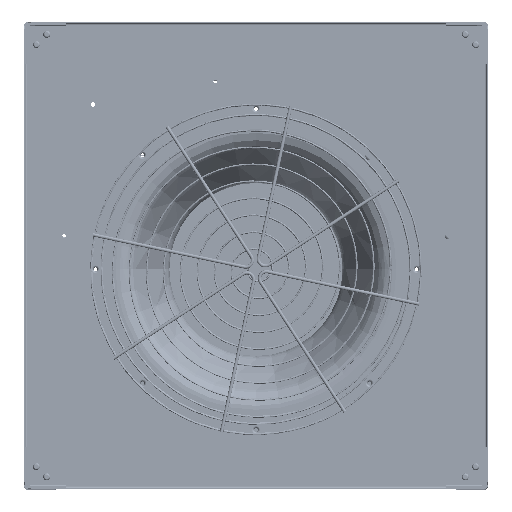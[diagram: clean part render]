
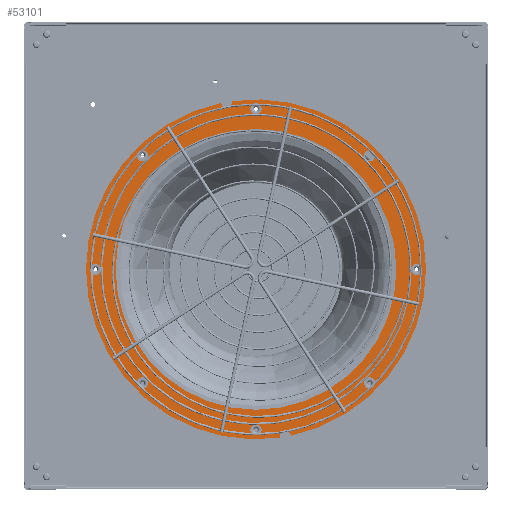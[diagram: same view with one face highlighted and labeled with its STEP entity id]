
A CAD part, top view. The second image highlights one B-rep face of the part: STEP entity #53101.
In plain terms, the highlighted planar face has unit normal (0, 0, 1) as drawn and (1, 0, 0) by its records, which use the part's own axes.
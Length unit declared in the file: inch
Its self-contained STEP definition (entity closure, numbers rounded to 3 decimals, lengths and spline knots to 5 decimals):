
#52357=CARTESIAN_POINT('',(0.,2.1489,-12.187));
#52358=DIRECTION('',(1.,0.,0.));
#52359=DIRECTION('',(0.,0.982,0.19));
#52360=AXIS2_PLACEMENT_3D('',#52357,#52358,#52359);
#52362=CARTESIAN_POINT('',(0.,2.1489,-12.187));
#52363=DIRECTION('',(1.,0.,0.));
#52364=DIRECTION('',(0.,-1.,0.));
#52365=AXIS2_PLACEMENT_3D('',#52362,#52363,#52364);
#52367=CARTESIAN_POINT('',(0.,0.,0.));
#52368=DIRECTION('',(-1.,0.,0.));
#52369=DIRECTION('',(0.,0.141,-0.99));
#52370=AXIS2_PLACEMENT_3D('',#52367,#52368,#52369);
#52372=CARTESIAN_POINT('',(0.,0.,0.));
#52373=DIRECTION('',(-1.,0.,0.));
#52374=DIRECTION('',(0.,-1.,0.));
#52375=AXIS2_PLACEMENT_3D('',#52372,#52373,#52374);
#52377=CARTESIAN_POINT('',(0.,-2.1489,12.187));
#52378=DIRECTION('',(1.,0.,0.));
#52379=DIRECTION('',(0.,-0.982,-0.19));
#52380=AXIS2_PLACEMENT_3D('',#52377,#52378,#52379);
#52382=CARTESIAN_POINT('',(0.,-2.1489,12.187));
#52383=DIRECTION('',(1.,0.,0.));
#52384=DIRECTION('',(0.,1.,0.));
#52385=AXIS2_PLACEMENT_3D('',#52382,#52383,#52384);
#52387=CARTESIAN_POINT('',(0.,0.,0.));
#52388=DIRECTION('',(-1.,0.,0.));
#52389=DIRECTION('',(0.,-0.141,0.99));
#52390=AXIS2_PLACEMENT_3D('',#52387,#52388,#52389);
#52392=CARTESIAN_POINT('',(0.,0.,0.));
#52393=DIRECTION('',(-1.,0.,0.));
#52394=DIRECTION('',(0.,1.,0.));
#52395=AXIS2_PLACEMENT_3D('',#52392,#52393,#52394);
#52397=CARTESIAN_POINT('',(0.,11.69,0.));
#52398=DIRECTION('',(1.,0.,0.));
#52399=DIRECTION('',(0.,1.,0.));
#52400=AXIS2_PLACEMENT_3D('',#52397,#52398,#52399);
#52402=CARTESIAN_POINT('',(0.,11.69,0.));
#52403=DIRECTION('',(1.,0.,0.));
#52404=DIRECTION('',(0.,-1.,0.));
#52405=AXIS2_PLACEMENT_3D('',#52402,#52403,#52404);
#52407=CARTESIAN_POINT('',(0.,8.26608,8.26608));
#52408=DIRECTION('',(1.,0.,0.));
#52409=DIRECTION('',(0.,1.,0.));
#52410=AXIS2_PLACEMENT_3D('',#52407,#52408,#52409);
#52412=CARTESIAN_POINT('',(0.,8.26608,8.26608));
#52413=DIRECTION('',(1.,0.,0.));
#52414=DIRECTION('',(0.,-1.,0.));
#52415=AXIS2_PLACEMENT_3D('',#52412,#52413,#52414);
#52417=CARTESIAN_POINT('',(0.,0.,11.69));
#52418=DIRECTION('',(1.,0.,0.));
#52419=DIRECTION('',(0.,1.,0.));
#52420=AXIS2_PLACEMENT_3D('',#52417,#52418,#52419);
#52422=CARTESIAN_POINT('',(0.,0.,11.69));
#52423=DIRECTION('',(1.,0.,0.));
#52424=DIRECTION('',(0.,-1.,0.));
#52425=AXIS2_PLACEMENT_3D('',#52422,#52423,#52424);
#52427=CARTESIAN_POINT('',(0.,-8.26608,8.26608));
#52428=DIRECTION('',(1.,0.,0.));
#52429=DIRECTION('',(0.,1.,0.));
#52430=AXIS2_PLACEMENT_3D('',#52427,#52428,#52429);
#52432=CARTESIAN_POINT('',(0.,-8.26608,8.26608));
#52433=DIRECTION('',(1.,0.,0.));
#52434=DIRECTION('',(0.,-1.,0.));
#52435=AXIS2_PLACEMENT_3D('',#52432,#52433,#52434);
#52437=CARTESIAN_POINT('',(0.,-11.69,0.));
#52438=DIRECTION('',(1.,0.,0.));
#52439=DIRECTION('',(0.,1.,0.));
#52440=AXIS2_PLACEMENT_3D('',#52437,#52438,#52439);
#52442=CARTESIAN_POINT('',(0.,-11.69,0.));
#52443=DIRECTION('',(1.,0.,0.));
#52444=DIRECTION('',(0.,-1.,0.));
#52445=AXIS2_PLACEMENT_3D('',#52442,#52443,#52444);
#52447=CARTESIAN_POINT('',(0.,-8.26608,-8.26608));
#52448=DIRECTION('',(1.,0.,0.));
#52449=DIRECTION('',(0.,1.,0.));
#52450=AXIS2_PLACEMENT_3D('',#52447,#52448,#52449);
#52452=CARTESIAN_POINT('',(0.,-8.26608,-8.26608));
#52453=DIRECTION('',(1.,0.,0.));
#52454=DIRECTION('',(0.,-1.,0.));
#52455=AXIS2_PLACEMENT_3D('',#52452,#52453,#52454);
#52457=CARTESIAN_POINT('',(0.,0.,-11.69));
#52458=DIRECTION('',(1.,0.,0.));
#52459=DIRECTION('',(0.,1.,0.));
#52460=AXIS2_PLACEMENT_3D('',#52457,#52458,#52459);
#52462=CARTESIAN_POINT('',(0.,0.,-11.69));
#52463=DIRECTION('',(1.,0.,0.));
#52464=DIRECTION('',(0.,-1.,0.));
#52465=AXIS2_PLACEMENT_3D('',#52462,#52463,#52464);
#52467=CARTESIAN_POINT('',(0.,8.26608,-8.26608));
#52468=DIRECTION('',(1.,0.,0.));
#52469=DIRECTION('',(0.,1.,0.));
#52470=AXIS2_PLACEMENT_3D('',#52467,#52468,#52469);
#52472=CARTESIAN_POINT('',(0.,8.26608,-8.26608));
#52473=DIRECTION('',(1.,0.,0.));
#52474=DIRECTION('',(0.,-1.,0.));
#52475=AXIS2_PLACEMENT_3D('',#52472,#52473,#52474);
#52477=CARTESIAN_POINT('',(0.,0.,0.));
#52478=DIRECTION('',(1.,0.,0.));
#52479=DIRECTION('',(0.,-1.,0.));
#52480=AXIS2_PLACEMENT_3D('',#52477,#52478,#52479);
#52482=CARTESIAN_POINT('',(0.,0.,0.));
#52483=DIRECTION('',(1.,0.,0.));
#52484=DIRECTION('',(0.,1.,0.));
#52485=AXIS2_PLACEMENT_3D('',#52482,#52483,#52484);
#52720=CARTESIAN_POINT('',(0.,12.096,0.));
#52721=CARTESIAN_POINT('',(0.,11.284,0.));
#52722=VERTEX_POINT('',#52720);
#52723=VERTEX_POINT('',#52721);
#52724=CARTESIAN_POINT('',(0.,2.54752,-12.10995));
#52725=CARTESIAN_POINT('',(0.,1.7429,-12.187));
#52726=VERTEX_POINT('',#52724);
#52727=VERTEX_POINT('',#52725);
#52728=CARTESIAN_POINT('',(0.,1.74796,-12.25093));
#52729=VERTEX_POINT('',#52728);
#52730=CARTESIAN_POINT('',(0.,-12.375,0.));
#52731=CARTESIAN_POINT('',(0.,-2.54752,12.10995));
#52732=VERTEX_POINT('',#52730);
#52733=VERTEX_POINT('',#52731);
#52734=CARTESIAN_POINT('',(0.,-1.7429,12.187));
#52735=VERTEX_POINT('',#52734);
#52736=CARTESIAN_POINT('',(0.,-1.74796,12.25093));
#52737=VERTEX_POINT('',#52736);
#52738=CARTESIAN_POINT('',(0.,12.375,0.));
#52739=VERTEX_POINT('',#52738);
#52740=CARTESIAN_POINT('',(0.,8.67208,8.26608));
#52741=CARTESIAN_POINT('',(0.,7.86008,8.26608));
#52742=VERTEX_POINT('',#52740);
#52743=VERTEX_POINT('',#52741);
#52744=CARTESIAN_POINT('',(0.,0.406,11.69));
#52745=CARTESIAN_POINT('',(0.,-0.406,11.69));
#52746=VERTEX_POINT('',#52744);
#52747=VERTEX_POINT('',#52745);
#52748=CARTESIAN_POINT('',(0.,-7.86008,8.26608));
#52749=CARTESIAN_POINT('',(0.,-8.67208,8.26608));
#52750=VERTEX_POINT('',#52748);
#52751=VERTEX_POINT('',#52749);
#52752=CARTESIAN_POINT('',(0.,-11.284,0.));
#52753=CARTESIAN_POINT('',(0.,-12.096,0.));
#52754=VERTEX_POINT('',#52752);
#52755=VERTEX_POINT('',#52753);
#52756=CARTESIAN_POINT('',(0.,-7.86008,-8.26608));
#52757=CARTESIAN_POINT('',(0.,-8.67208,-8.26608));
#52758=VERTEX_POINT('',#52756);
#52759=VERTEX_POINT('',#52757);
#52760=CARTESIAN_POINT('',(0.,0.406,-11.69));
#52761=CARTESIAN_POINT('',(0.,-0.406,-11.69));
#52762=VERTEX_POINT('',#52760);
#52763=VERTEX_POINT('',#52761);
#52764=CARTESIAN_POINT('',(0.,8.67208,-8.26608));
#52765=CARTESIAN_POINT('',(0.,7.86008,-8.26608));
#52766=VERTEX_POINT('',#52764);
#52767=VERTEX_POINT('',#52765);
#52768=CARTESIAN_POINT('',(0.,-10.22,0.));
#52769=CARTESIAN_POINT('',(0.,10.22,0.));
#52770=VERTEX_POINT('',#52768);
#52771=VERTEX_POINT('',#52769);
#53026=CARTESIAN_POINT('',(0.,0.,0.));
#53027=DIRECTION('',(1.,0.,0.));
#53028=DIRECTION('',(0.,-1.,0.));
#53029=AXIS2_PLACEMENT_3D('',#53026,#53027,#53028);
#53030=PLANE('',#53029);
#53031=ORIENTED_EDGE('',*,*,#53015,.T.);
#53032=ORIENTED_EDGE('',*,*,#53013,.T.);
#53034=ORIENTED_EDGE('',*,*,#53033,.T.);
#53036=ORIENTED_EDGE('',*,*,#53035,.T.);
#53038=ORIENTED_EDGE('',*,*,#53037,.T.);
#53040=ORIENTED_EDGE('',*,*,#53039,.T.);
#53042=ORIENTED_EDGE('',*,*,#53041,.T.);
#53044=ORIENTED_EDGE('',*,*,#53043,.T.);
#53045=EDGE_LOOP('',(#53031,#53032,#53034,#53036,#53038,#53040,#53042,#53044));
#53046=FACE_OUTER_BOUND('',#53045,.F.);
#53048=ORIENTED_EDGE('',*,*,#53047,.T.);
#53050=ORIENTED_EDGE('',*,*,#53049,.T.);
#53051=EDGE_LOOP('',(#53048,#53050));
#53052=FACE_BOUND('',#53051,.F.);
#53054=ORIENTED_EDGE('',*,*,#53053,.T.);
#53056=ORIENTED_EDGE('',*,*,#53055,.T.);
#53057=EDGE_LOOP('',(#53054,#53056));
#53058=FACE_BOUND('',#53057,.F.);
#53060=ORIENTED_EDGE('',*,*,#53059,.T.);
#53062=ORIENTED_EDGE('',*,*,#53061,.T.);
#53063=EDGE_LOOP('',(#53060,#53062));
#53064=FACE_BOUND('',#53063,.F.);
#53066=ORIENTED_EDGE('',*,*,#53065,.T.);
#53068=ORIENTED_EDGE('',*,*,#53067,.T.);
#53069=EDGE_LOOP('',(#53066,#53068));
#53070=FACE_BOUND('',#53069,.F.);
#53072=ORIENTED_EDGE('',*,*,#53071,.T.);
#53074=ORIENTED_EDGE('',*,*,#53073,.T.);
#53075=EDGE_LOOP('',(#53072,#53074));
#53076=FACE_BOUND('',#53075,.F.);
#53078=ORIENTED_EDGE('',*,*,#53077,.T.);
#53080=ORIENTED_EDGE('',*,*,#53079,.T.);
#53081=EDGE_LOOP('',(#53078,#53080));
#53082=FACE_BOUND('',#53081,.F.);
#53084=ORIENTED_EDGE('',*,*,#53083,.T.);
#53086=ORIENTED_EDGE('',*,*,#53085,.T.);
#53087=EDGE_LOOP('',(#53084,#53086));
#53088=FACE_BOUND('',#53087,.F.);
#53090=ORIENTED_EDGE('',*,*,#53089,.T.);
#53092=ORIENTED_EDGE('',*,*,#53091,.T.);
#53093=EDGE_LOOP('',(#53090,#53092));
#53094=FACE_BOUND('',#53093,.F.);
#53096=ORIENTED_EDGE('',*,*,#53095,.T.);
#53098=ORIENTED_EDGE('',*,*,#53097,.T.);
#53099=EDGE_LOOP('',(#53096,#53098));
#53100=FACE_BOUND('',#53099,.F.);
#53101=ADVANCED_FACE('',(#53046,#53052,#53058,#53064,#53070,#53076,#53082,
#53088,#53094,#53100),#53030,.T.);
#52361=CIRCLE('',#52360,0.406);
#52366=CIRCLE('',#52365,0.406);
#52371=CIRCLE('',#52370,12.375);
#52376=CIRCLE('',#52375,12.375);
#52381=CIRCLE('',#52380,0.406);
#52386=CIRCLE('',#52385,0.406);
#52391=CIRCLE('',#52390,12.375);
#52396=CIRCLE('',#52395,12.375);
#52401=CIRCLE('',#52400,0.406);
#52406=CIRCLE('',#52405,0.406);
#52411=CIRCLE('',#52410,0.406);
#52416=CIRCLE('',#52415,0.406);
#52421=CIRCLE('',#52420,0.406);
#52426=CIRCLE('',#52425,0.406);
#52431=CIRCLE('',#52430,0.406);
#52436=CIRCLE('',#52435,0.406);
#52441=CIRCLE('',#52440,0.406);
#52446=CIRCLE('',#52445,0.406);
#52451=CIRCLE('',#52450,0.406);
#52456=CIRCLE('',#52455,0.406);
#52461=CIRCLE('',#52460,0.406);
#52466=CIRCLE('',#52465,0.406);
#52471=CIRCLE('',#52470,0.406);
#52476=CIRCLE('',#52475,0.406);
#52481=CIRCLE('',#52480,10.22);
#52486=CIRCLE('',#52485,10.22);
#53013=EDGE_CURVE('',#52727,#52729,#52366,.T.);
#53015=EDGE_CURVE('',#52726,#52727,#52361,.T.);
#53033=EDGE_CURVE('',#52729,#52732,#52371,.T.);
#53035=EDGE_CURVE('',#52732,#52733,#52376,.T.);
#53037=EDGE_CURVE('',#52733,#52735,#52381,.T.);
#53039=EDGE_CURVE('',#52735,#52737,#52386,.T.);
#53041=EDGE_CURVE('',#52737,#52739,#52391,.T.);
#53043=EDGE_CURVE('',#52739,#52726,#52396,.T.);
#53047=EDGE_CURVE('',#52722,#52723,#52401,.T.);
#53049=EDGE_CURVE('',#52723,#52722,#52406,.T.);
#53053=EDGE_CURVE('',#52742,#52743,#52411,.T.);
#53055=EDGE_CURVE('',#52743,#52742,#52416,.T.);
#53059=EDGE_CURVE('',#52746,#52747,#52421,.T.);
#53061=EDGE_CURVE('',#52747,#52746,#52426,.T.);
#53065=EDGE_CURVE('',#52750,#52751,#52431,.T.);
#53067=EDGE_CURVE('',#52751,#52750,#52436,.T.);
#53071=EDGE_CURVE('',#52754,#52755,#52441,.T.);
#53073=EDGE_CURVE('',#52755,#52754,#52446,.T.);
#53077=EDGE_CURVE('',#52758,#52759,#52451,.T.);
#53079=EDGE_CURVE('',#52759,#52758,#52456,.T.);
#53083=EDGE_CURVE('',#52762,#52763,#52461,.T.);
#53085=EDGE_CURVE('',#52763,#52762,#52466,.T.);
#53089=EDGE_CURVE('',#52766,#52767,#52471,.T.);
#53091=EDGE_CURVE('',#52767,#52766,#52476,.T.);
#53095=EDGE_CURVE('',#52770,#52771,#52481,.T.);
#53097=EDGE_CURVE('',#52771,#52770,#52486,.T.);
